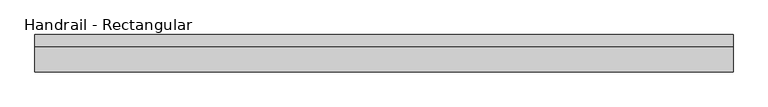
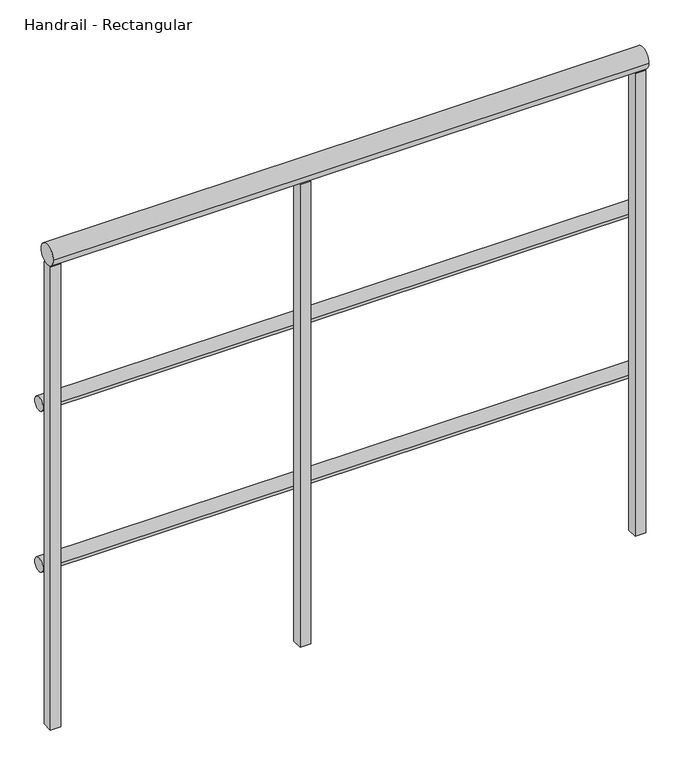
"""IFC4 building model written with IfcOpenShell, lengths in millimetres: railing geometry, Handrail - Rectangular."""

from ifc_helpers import new_model, si_unit, point, frame, frame_2d, origin, place, context, project, spatial, polyline, circle_curve, trimmed, segment, composite_curve, outline, extrude, source, transform, mapped, element, save


def handrail_rectangular_886fd0c0(model_context):
    return source(origin(), model_context, "Body", "SweptSolid", [
        extrude(outline(composite_curve([segment(trimmed(circle_curve(frame_2d((11970.2316867, 9740.9)), 12.7), [point((11982.9316867, 9740.9))], [point((11957.5316867, 9740.9))], False, "CARTESIAN"), True, "CONTINUOUS"), segment(trimmed(circle_curve(frame_2d((11970.2316867, 9740.9)), 12.7), [point((11957.5316867, 9740.9))], [point((11982.9316867, 9740.9))], False, "CARTESIAN"), True, "CONTINUOUS")], self_intersect=False)), frame((-31964.2839563, 0.0, 0.0), z_axis=(1.0, 0.0, 0.0), x_axis=(0.0, 1.0, 0.0)), (0.0, 0.0, 1.0), 1066.8),
        extrude(outline(composite_curve([segment(trimmed(circle_curve(frame_2d((11970.2316867, 9436.1)), 12.7), [point((11982.9316867, 9436.1))], [point((11957.5316867, 9436.1))], False, "CARTESIAN"), True, "CONTINUOUS"), segment(trimmed(circle_curve(frame_2d((11970.2316867, 9436.1)), 12.7), [point((11957.5316867, 9436.1))], [point((11982.9316867, 9436.1))], False, "CARTESIAN"), True, "CONTINUOUS")], self_intersect=False)), frame((-31964.2839563, 0.0, 0.0), z_axis=(1.0, 0.0, 0.0), x_axis=(0.0, 1.0, 0.0)), (0.0, 0.0, 1.0), 1066.8),
        extrude(outline(composite_curve([segment(trimmed(circle_curve(frame_2d((11944.8316867, 10039.35)), 19.05), [point((11963.8816867, 10039.35))], [point((11925.7816867, 10039.35))], False, "CARTESIAN"), True, "CONTINUOUS"), segment(trimmed(circle_curve(frame_2d((11944.8316867, 10039.35)), 19.05), [point((11925.7816867, 10039.35))], [point((11963.8816867, 10039.35))], False, "CARTESIAN"), True, "CONTINUOUS")], self_intersect=False)), frame((-31964.2839563, 0.0, 0.0), z_axis=(1.0, 0.0, 0.0), x_axis=(0.0, 1.0, 0.0)), (0.0, 0.0, 1.0), 1066.8),
        extrude(outline(polyline([(-31497.5589563, 11935.3066867), (-31516.6089563, 11935.3066867), (-31516.6089563, 11954.3566867), (-31497.5589563, 11954.3566867), (-31497.5589563, 11935.3066867)])), frame((0.0, 0.0, 9144.0), z_axis=(0.0, 0.0, 1.0), x_axis=(1.0, 0.0, 0.0)), (0.0, 0.0, 1.0), 876.3),
        extrude(outline(polyline([(-31945.2339563, 11935.3066867), (-31964.2839563, 11935.3066867), (-31964.2839563, 11954.3566867), (-31945.2339563, 11954.3566867), (-31945.2339563, 11935.3066867)])), frame((0.0, 0.0, 9144.0), z_axis=(0.0, 0.0, 1.0), x_axis=(1.0, 0.0, 0.0)), (0.0, 0.0, 1.0), 876.3),
        extrude(outline(polyline([(-30897.4839563, 11935.3066867), (-30916.5339563, 11935.3066867), (-30916.5339563, 11954.3566867), (-30897.4839563, 11954.3566867), (-30897.4839563, 11935.3066867)])), frame((0.0, 0.0, 9144.0), z_axis=(0.0, 0.0, 1.0), x_axis=(1.0, 0.0, 0.0)), (0.0, 0.0, 1.0), 876.3),
    ])


if __name__ == "__main__":
    model = new_model("IFC4")
    model_context = context("Model", 3, world=origin())
    ifc_project = project(units=[si_unit("LENGTHUNIT", "METRE", prefix="MILLI")], contexts=[model_context])
    site = spatial("IfcSite", under=ifc_project)
    building = spatial("IfcBuilding", under=site)
    placement = place(None, origin())
    handrail_rectangular_shape = handrail_rectangular_886fd0c0(model_context)
    element("IfcRailing", 1, ObjectType="Handrail - Rectangular", at=placement, inside=building, context=model_context, shape_type="MappedRepresentation", body=[
        mapped(handrail_rectangular_shape, transform((0.0, 0.0, 0.0), x_axis=(1.0, 0.0, 0.0), y_axis=(0.0, 1.0, 0.0), z_axis=(0.0, 0.0, 1.0))),
    ])
    save(model, "model.ifc")
